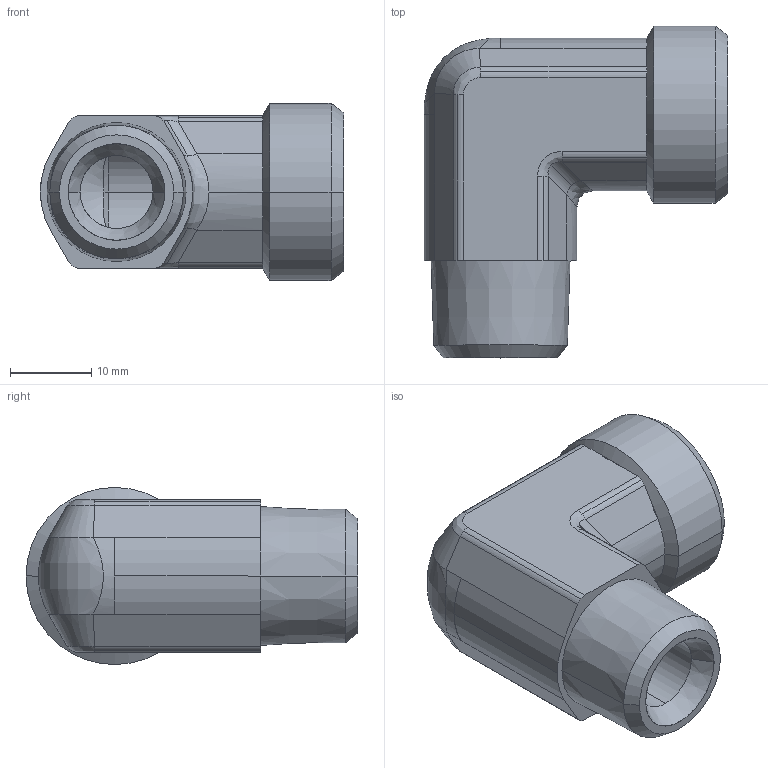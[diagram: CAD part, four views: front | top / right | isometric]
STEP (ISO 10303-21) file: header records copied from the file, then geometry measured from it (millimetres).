
FILE_DESCRIPTION((''),'2;1');
FILE_NAME('102033.stp','2007-10-30T16:35:34',(''),(''),'AutoCAD STEP 2000i','AutoCAD 2000i',', , ');
FILE_SCHEMA(('CONFIG_CONTROL_DESIGN'));
Length unit declared in the file: millimetre
Products named in the file (2): 102033.0; 3090#0
Assembly tree (1 placements, depth 2):
  102033.0
    3090#0
Bounding box: 37.4 x 40.92 x 21.85 mm (x, y, z)
Volume: 11050.3 mm3; surface area: 5858.3 mm2
Topology: 1 solids, 1 shells, 87 faces, 210 edges, 127 vertices
Faces by surface type: cylinder 36, plane 22, cone 15, bspline 14
Entity records: 3448 total; most frequent: CARTESIAN_POINT 1308, DIRECTION 447, ORIENTED_EDGE 420, EDGE_CURVE 210, AXIS2_PLACEMENT_3D 182, VERTEX_POINT 127, CIRCLE 97, EDGE_LOOP 91
